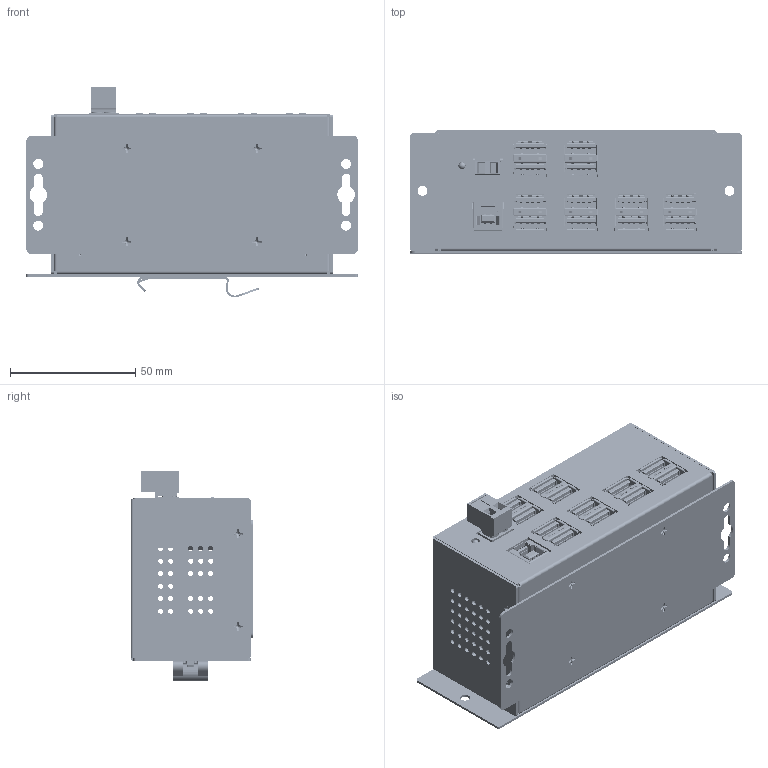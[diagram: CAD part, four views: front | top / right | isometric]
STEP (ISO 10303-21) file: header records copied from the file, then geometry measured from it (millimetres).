
FILE_DESCRIPTION(/* description */ (''),/* implementation_level */ '2;1');
FILE_NAME(/* name */ '/Users/leo/Desktop/Coolgear May/GM-FTDI-LED16/CG-12PU31HB/CG-12PU31HB Model3D LPV1.step',/* time_stamp */ '2021-06-08T11:33:57-04:00',/* author */ (''),/* organization */ (''),/* preprocessor_version */ 'ST-DEVELOPER v18.1',/* originating_system */ 'Autodesk Translation Framework v10.9.0.1377',/* authorisation */ '');
FILE_SCHEMA (('AUTOMOTIVE_DESIGN { 1 0 10303 214 3 1 1 }'));
Products named in the file (45): CG-12PU31HB; BRACKET162PU31HB; Tall Nut Spacer M3 x12mmH v2; Tall Nut Spacer M3 x12mmH v2 (1); Component8; Bolt M3X0.5 100Angle 5mmHead.5 China 120ang METRIC 18-8 SS FLAT HEAD 
PHIL MACHINE SCREW v2; USB Type A Double Blue.0 v4; USB Type A Double Blue.0 v4_1; USB Type A Double Blue.0 v4_2; USB Type A Double Blue.0 v4_3; USB Type A Double Blue.0 v4_4; USB Type A Double Blue.0 v4_5; Housing1; Housing; Housing2; Housing4; Shielding2; Shielding; pin1; pin4; pin3; pin2; pin5; pin6; USB type B Second Gen Blue.2Gen1 v2; Housing1 (1); Housing2 (1); pin1 (1); shielding_1; pin2 (1); shielding_2; Housing3; pin3 (1); pin4 (1); pin5 (1); pin3_mir2; pin4_mir2; LED 1 Block mounting pcb v2; User_Library-Led_3mm_Dialight_mod__551-1107F; Connector green Phoenix 2 holes female 5.08 v1 ...
Assembly tree (197 placements, depth 3):
  CG-12PU31HB
    BRACKET162PU31HB
    Tall Nut Spacer M3 x12mmH v2  x4
    Component8  x2
    Tall Nut Spacer M3 x12mmH v2 (1)  x4
    Bolt M3X0.5 100Angle 5mmHead.5 China 120ang METRIC 18-8 SS FLAT HEAD 
PHIL MACHINE SCREW v2  x12
    USB Type A Double Blue.0 v4
      pin1  x5
      pin4  x5
      pin3  x2
      pin2  x2
      pin5  x2
      pin6  x2
      Housing1
      Housing
      Housing2
      Housing4
      Shielding2
      Shielding
    USB Type A Double Blue.0 v4_1
      pin1  x5
      pin4  x5
      pin3  x2
      pin2  x2
      pin5  x2
      pin6  x2
      Housing1
      Housing
      Housing2
      Housing4
      Shielding2
      Shielding
    USB Type A Double Blue.0 v4_2
      pin1  x5
      pin4  x5
      pin3  x2
      pin2  x2
      pin5  x2
      pin6  x2
      Housing1
      Housing
      Housing2
      Housing4
      Shielding2
      Shielding
    USB Type A Double Blue.0 v4_3
      pin1  x5
      pin4  x5
      pin3  x2
      pin2  x2
      pin5  x2
      pin6  x2
      Housing1
      Housing
      Housing2
      Housing4
      Shielding2
      Shielding
    USB Type A Double Blue.0 v4_4
      pin1  x5
Bounding box: 132.65 x 49.08 x 84.26 mm (x, y, z)
Volume: 78646.5 mm3; surface area: 151870.8 mm2
Topology: 6 solids, 326 shells, 15580 faces, 43946 edges, 28467 vertices
Faces by surface type: plane 11030, cylinder 4013, cone 286, bspline 248, sphere 3
Full cylindrical faces by diameter (mm): 1.6 x2, 2 x72, 2.35 x156, 2.459 x4, 2.89 x1, 3 x162, 3.5 x1, 3.75 x4, 3.86 x2, 4 x6
Entity records: 569715 total; most frequent: CARTESIAN_POINT 163396, ORIENTED_EDGE 87584, DIRECTION 79990, EDGE_CURVE 43792, LINE 33588, VECTOR 33588, VERTEX_POINT 28387, AXIS2_PLACEMENT_3D 23201
